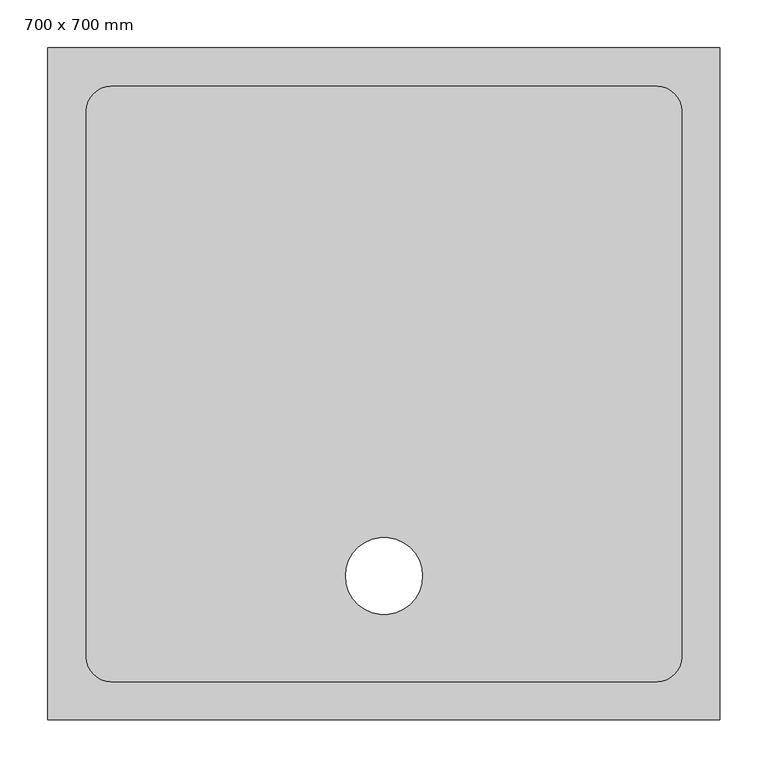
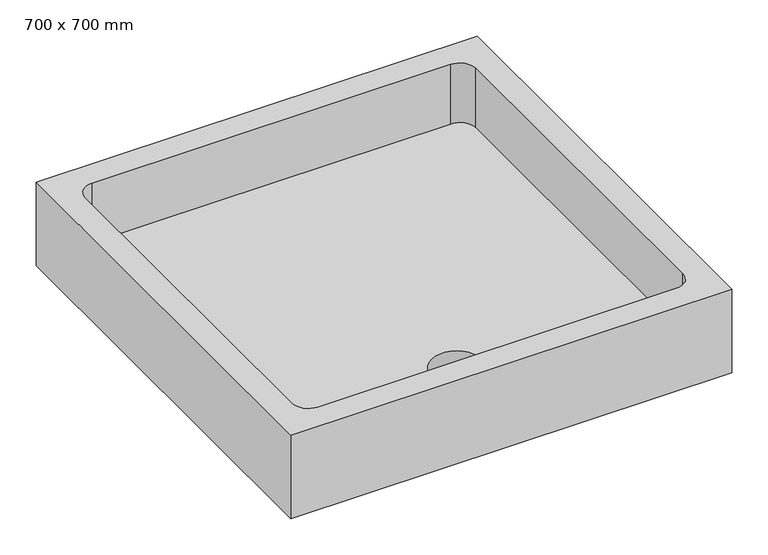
"""IFC4 building model written with IfcOpenShell, lengths in millimetres: flow terminal geometry, Cubeta de ducha - Desagüe axial : 700 x 700 mm."""

import ifcopenshell
import ifcopenshell.guid

model = None  # the IFC model being written
_history = None  # IfcOwnerHistory: only IFC2X3 demands one
_inside = {}  # id of a spatial element -> (the spatial element, [elements in it])
_under = {}  # id of a project, library or spatial element -> (it, [spatial elements below it])
_declared = {}  # id of a project -> (the project, [libraries it declares])
_typed = {}  # id of a type object -> (the type object, [elements of that type])
_made_of = {}  # id of a material, layer set ... -> (it, [elements and type objects made of it])


def new_model(schema):
    """Start an empty IFC model of exactly this schema.

    Asked for "IFC4X3", IfcOpenShell would pick the latest addendum, in which some entities
    have other attributes; the version numbers below select the first issue.
    IFC2X3 requires an IfcOwnerHistory on every rooted entity: one is made here for all.
    """
    global model, _history
    if schema == "IFC4X3":
        model = ifcopenshell.file(schema_version=(4, 3, 0, 0))
    else:
        model = ifcopenshell.file(schema=schema)
    _inside.clear()
    _under.clear()
    _declared.clear()
    _typed.clear()
    _made_of.clear()
    _history = None
    if model.schema == "IFC2X3":
        org = make("IfcOrganization", Name="unknown")
        user = make(
            "IfcPersonAndOrganization",
            ThePerson=make("IfcPerson", FamilyName="unknown"),
            TheOrganization=org,
        )
        app = make(
            "IfcApplication",
            ApplicationDeveloper=org,
            Version="unknown",
            ApplicationFullName="unknown",
            ApplicationIdentifier="unknown",
        )
        _history = make(
            "IfcOwnerHistory",
            OwningUser=user,
            OwningApplication=app,
            ChangeAction="ADDED",
            CreationDate=0,
        )
    return model


def make(cls, **values):
    """One entity of the class cls with the attributes given. An attribute that is None is left unset."""
    return model.create_entity(
        cls, **{name: value for name, value in values.items() if value is not None}
    )


def rooted(cls, **values):
    """An entity with a GlobalId (a new one), such as an element, a storey or a relation."""
    return make(cls, GlobalId=ifcopenshell.guid.new(), OwnerHistory=_history, **values)


def si_unit(unit_type, name, prefix=None):
    """IfcSIUnit, for example si_unit("LENGTHUNIT", "METRE", prefix="MILLI")."""
    return make("IfcSIUnit", UnitType=unit_type, Prefix=prefix, Name=name)


def assignment(units):
    """IfcUnitAssignment: the units of a project."""
    return None if units is None else make("IfcUnitAssignment", Units=units)


def point(xyz):
    """IfcCartesianPoint."""
    return None if xyz is None else make("IfcCartesianPoint", Coordinates=xyz)


def direction(xyz):
    """IfcDirection."""
    return None if xyz is None else make("IfcDirection", DirectionRatios=xyz)


def frame(location, z_axis=None, x_axis=None):
    """IfcAxis2Placement3D, a coordinate frame: its origin and axes. An axis left out is left unset."""
    return make(
        "IfcAxis2Placement3D",
        Location=point(location),
        Axis=direction(z_axis),
        RefDirection=direction(x_axis),
    )


def origin():
    """The frame at (0, 0, 0) with its axes left unset."""
    return frame((0.0, 0.0, 0.0))


def place(relative_to, where):
    """IfcLocalPlacement: puts the frame where relative to a parent placement (None: the world)."""
    return make(
        "IfcLocalPlacement", PlacementRelTo=relative_to, RelativePlacement=where
    )


def context(
    kind, dimensions, precision=None, world=None, true_north=None, identifier=None
):
    """IfcGeometricRepresentationContext, for example the 3D "Model" context."""
    return make(
        "IfcGeometricRepresentationContext",
        ContextIdentifier=identifier,
        ContextType=kind,
        CoordinateSpaceDimension=dimensions,
        Precision=precision,
        WorldCoordinateSystem=world,
        TrueNorth=true_north,
    )


def project(units=None, contexts=None):
    """IfcProject with its units and contexts."""
    return rooted(
        "IfcProject",
        Name="project",
        RepresentationContexts=contexts,
        UnitsInContext=assignment(units),
    )


def spatial(cls, under=None, at=None, **own):
    """A site, building, storey or space (cls), placed at a placement, below another one or the project."""
    s = rooted(cls, ObjectPlacement=at, **own)
    if under is not None:
        _under.setdefault(under.id(), (under, []))[1].append(s)
    return s


def polyline(points):
    """IfcPolyline through the points."""
    return make("IfcPolyline", Points=[point(p) for p in points])


def circle_curve(where, radius):
    """IfcCircle in the frame where."""
    return make("IfcCircle", Position=where, Radius=radius)


def shape(context_of_items, identifier, shape_type, items):
    """IfcShapeRepresentation: the items that make up one representation, for example the "Body"."""
    return make(
        "IfcShapeRepresentation",
        ContextOfItems=context_of_items,
        RepresentationIdentifier=identifier,
        RepresentationType=shape_type,
        Items=items,
    )


def source(mapping_origin, context_of_items, identifier, shape_type, items):
    """IfcRepresentationMap: a shape defined once, which mapped items show again and again."""
    return make(
        "IfcRepresentationMap",
        MappingOrigin=mapping_origin,
        MappedRepresentation=shape(context_of_items, identifier, shape_type, items),
    )


def transform(
    local_origin,
    x_axis=None,
    y_axis=None,
    z_axis=None,
    scale=None,
    scale2=None,
    scale3=None,
    uniform=True,
):
    """IfcCartesianTransformationOperator3D, or its non-uniform kind. x_axis, y_axis, z_axis: its Axis1, 2, 3."""
    if uniform:
        return make(
            "IfcCartesianTransformationOperator3D",
            Axis1=direction(x_axis),
            Axis2=direction(y_axis),
            LocalOrigin=point(local_origin),
            Scale=scale,
            Axis3=direction(z_axis),
        )
    return make(
        "IfcCartesianTransformationOperator3DnonUniform",
        Axis1=direction(x_axis),
        Axis2=direction(y_axis),
        LocalOrigin=point(local_origin),
        Scale=scale,
        Axis3=direction(z_axis),
        Scale2=scale2,
        Scale3=scale3,
    )


def mapped(mapping_source, mapping_target):
    """IfcMappedItem: shows the shape of a source again, moved by a transform."""
    return make(
        "IfcMappedItem", MappingSource=mapping_source, MappingTarget=mapping_target
    )


def made_of(thing, what):
    """Note that an element or type object is made of a material, layer set ...; save() writes the relation."""
    if what is not None:
        _made_of.setdefault(what.id(), (what, []))[1].append(thing)
    return thing


def element(
    cls,
    number,
    at=None,
    inside=None,
    cuts=None,
    type_object=None,
    material=None,
    context=None,
    identifier="Body",
    shape_type=None,
    held_by="IfcProductDefinitionShape",
    body=None,
    shapes=None,
    **own,
):
    """One element of the class cls, such as IfcWall. Its Tag is "e" and its number.

    at: its placement. inside: the storey or other place that contains it. cuts: it is an
    opening in that element (IfcRelVoidsElement). A single representation is given by context,
    identifier, shape_type and body (its items); several are given by shapes. held_by: the class
    of the entity that holds the representations. save() writes the other relations.
    """
    e = rooted(cls, Tag="e%d" % number, ObjectPlacement=at, **own)
    if body is not None:
        shapes = [shape(context, identifier, shape_type, body)]
    if shapes is not None:
        e.Representation = make(held_by, Representations=shapes)
    if inside is not None:
        _inside.setdefault(inside.id(), (inside, []))[1].append(e)
    if cuts is not None:
        rooted(
            "IfcRelVoidsElement", RelatingBuildingElement=cuts, RelatedOpeningElement=e
        )
    if type_object is not None:
        _typed.setdefault(type_object.id(), (type_object, []))[1].append(e)
    return made_of(e, material)


def aggregate(whole, parts):
    """IfcRelAggregates: a whole, such as a stair, and the parts it consists of."""
    return rooted("IfcRelAggregates", RelatingObject=whole, RelatedObjects=parts)


def save(model, path):
    """Write the relations noted so far, then the file.

    IfcRelAggregates (storeys below a building ...), IfcRelContainedInSpatialStructure (elements
    in a storey), IfcRelDefinesByType, IfcRelAssociatesMaterial and IfcRelDeclares: one each for
    every whole, place, type object, material and project.
    """
    for whole, parts in _under.values():
        aggregate(whole, parts)
    for where, things in _inside.values():
        rooted(
            "IfcRelContainedInSpatialStructure",
            RelatedElements=things,
            RelatingStructure=where,
        )
    for kind, things in _typed.values():
        rooted("IfcRelDefinesByType", RelatedObjects=things, RelatingType=kind)
    for what, things in _made_of.values():
        rooted("IfcRelAssociatesMaterial", RelatedObjects=things, RelatingMaterial=what)
    for by, libraries in _declared.values():
        rooted("IfcRelDeclares", RelatingContext=by, RelatedDefinitions=libraries)
    model.write(path)


def plane_surface(at):
    """IfcPlane: the flat surface through the origin of the frame at, square to its z axis."""
    return make("IfcPlane", Position=at)


def revolved_surface(curve, axis_point, axis_direction):
    """IfcSurfaceOfRevolution: the curve turned about the line through axis_point along axis_direction."""
    return make(
        "IfcSurfaceOfRevolution",
        SweptCurve=make("IfcArbitraryOpenProfileDef", ProfileType="CURVE", Curve=curve),
        AxisPosition=make("IfcAxis1Placement", Location=point(axis_point), Axis=direction(axis_direction)),
    )


def advanced_brep(points, edges, surfaces, faces):
    """IfcAdvancedBrep: a solid bounded by faces that lie on surfaces and meet in shared edges.

    An edge is (start, end): straight between two places in points (the first is 0);
    or (start, end, curve); or (start, end, curve, False) where it runs against its curve.
    A face is (place in surfaces, loops), or (place, loops, False) where it looks against
    its surface's normal. A loop lists edges by number (the first is 1), with a minus sign
    where the edge is run from its end to its start. The first loop is the outer one.
    """
    corners = [point(p) for p in points]
    vertices = [make("IfcVertexPoint", VertexGeometry=c) for c in corners]
    made = []
    for start, end, *more in edges:
        made.append(
            make(
                "IfcEdgeCurve",
                EdgeStart=vertices[start],
                EdgeEnd=vertices[end],
                EdgeGeometry=more[0] if more else make("IfcPolyline", Points=[corners[start], corners[end]]),
                SameSense=more[1] if len(more) > 1 else True,
            )
        )
    hull = []
    for where, loops, *sense in faces:
        bounds = []
        for j, loop in enumerate(loops):
            ring = [make("IfcOrientedEdge", EdgeElement=made[abs(k) - 1], Orientation=k > 0) for k in loop]
            bounds.append(
                make(
                    "IfcFaceOuterBound" if j == 0 else "IfcFaceBound",
                    Bound=make("IfcEdgeLoop", EdgeList=ring),
                    Orientation=True,
                )
            )
        hull.append(make("IfcAdvancedFace", Bounds=bounds, FaceSurface=surfaces[where], SameSense=sense[0] if sense else True))
    return make("IfcAdvancedBrep", Outer=make("IfcClosedShell", CfsFaces=hull))


def flow_terminal_700_x_700_mm_ef0395e3(model_context):
    return source(origin(), model_context, "Body", "AdvancedBrep", [
        advanced_brep(
        [(350.0, 350.0, 140.0), (-350.0, 350.0, 140.0), (-350.0, -350.0, 140.0), (350.0, -350.0, 140.0), (310.0, -284.6, 140.0), (284.6, -310.0, 140.0), (-284.6, -310.0, 140.0), (-310.0, -284.6, 140.0), (-310.0, 284.6, 140.0), (-284.6, 310.0, 140.0), (284.6, 310.0, 140.0), (310.0, 284.6, 140.0), (350.0, 350.0, 0.0), (350.0, -350.0, 0.0), (-350.0, -350.0, 0.0), (-350.0, 350.0, 0.0), (-40.0, -200.0, 0.0), (40.0, -200.0, 0.0), (284.6, -310.0, 40.0), (310.0, -284.6, 40.0), (310.0, 284.6, 40.0), (284.6, 310.0, 40.0), (-284.6, 310.0, 40.0), (-310.0, 284.6, 40.0), (-310.0, -284.6, 40.0), (-284.6, -310.0, 40.0), (40.0, -200.0, 40.0), (-40.0, -200.0, 40.0)],
        [
            (0, 1),
            (1, 2),
            (2, 3),
            (3, 0),
            (4, 5, circle_curve(frame((284.6, -284.6, 140.0), z_axis=(0.0, 0.0, -1.0), x_axis=(1.0, 0.0, 0.0)), 25.4)),
            (5, 6),
            (6, 7, circle_curve(frame((-284.6, -284.6, 140.0), z_axis=(0.0, 0.0, -1.0), x_axis=(1.0, 0.0, 0.0)), 25.4)),
            (7, 8),
            (8, 9, circle_curve(frame((-284.6, 284.6, 140.0), z_axis=(0.0, 0.0, -1.0), x_axis=(1.0, 0.0, 0.0)), 25.4)),
            (9, 10),
            (10, 11, circle_curve(frame((284.6, 284.6, 140.0), z_axis=(0.0, 0.0, -1.0), x_axis=(1.0, 0.0, 0.0)), 25.4)),
            (11, 4),
            (12, 13),
            (13, 14),
            (14, 15),
            (15, 12),
            (16, 17, circle_curve(frame((0.0, -200.0, 0.0), z_axis=(0.0, 0.0, 1.0), x_axis=(1.0, 0.0, 0.0)), 40.0)),
            (17, 16, circle_curve(frame((0.0, -200.0, 0.0), z_axis=(0.0, 0.0, 1.0), x_axis=(1.0, 0.0, 0.0)), 40.0)),
            (0, 12),
            (15, 1),
            (14, 2),
            (13, 3),
            (18, 19, circle_curve(frame((284.6, -284.6, 40.0), z_axis=(0.0, 0.0, 1.0), x_axis=(1.0, 0.0, 0.0)), 25.4)),
            (19, 20),
            (20, 21, circle_curve(frame((284.6, 284.6, 40.0), z_axis=(0.0, 0.0, 1.0), x_axis=(1.0, 0.0, 0.0)), 25.4)),
            (21, 22),
            (22, 23, circle_curve(frame((-284.6, 284.6, 40.0), z_axis=(0.0, 0.0, 1.0), x_axis=(1.0, 0.0, 0.0)), 25.4)),
            (23, 24),
            (24, 25, circle_curve(frame((-284.6, -284.6, 40.0), z_axis=(0.0, 0.0, 1.0), x_axis=(1.0, 0.0, 0.0)), 25.4)),
            (25, 18),
            (26, 27, circle_curve(frame((0.0, -200.0, 40.0), z_axis=(0.0, 0.0, -1.0), x_axis=(1.0, 0.0, 0.0)), 40.0)),
            (27, 26, circle_curve(frame((0.0, -200.0, 40.0), z_axis=(0.0, 0.0, -1.0), x_axis=(1.0, 0.0, 0.0)), 40.0)),
            (18, 5),
            (4, 19),
            (11, 20),
            (10, 21),
            (9, 22),
            (8, 23),
            (7, 24),
            (6, 25),
            (16, 27),
            (26, 17),
        ],
        [
            plane_surface(frame((-350.0, 350.0, 140.0), z_axis=(0.0, 0.0, 1.0), x_axis=(-1.0, 0.0, 0.0))),
            plane_surface(frame((-350.0, 350.0, 0.0), z_axis=(0.0, 0.0, -1.0), x_axis=(1.0, 0.0, 0.0))),
            plane_surface(frame((350.0, 350.0, 140.0), z_axis=(0.0, 1.0, 0.0), x_axis=(0.0, 0.0, -1.0))),
            plane_surface(frame((-350.0, 350.0, 140.0), z_axis=(-1.0, 0.0, 0.0), x_axis=(0.0, 0.0, -1.0))),
            plane_surface(frame((-350.0, -350.0, 140.0), z_axis=(0.0, -1.0, 0.0), x_axis=(0.0, 0.0, -1.0))),
            plane_surface(frame((350.0, -350.0, 140.0), z_axis=(1.0, 0.0, 0.0), x_axis=(0.0, 0.0, -1.0))),
            plane_surface(frame((310.0, -284.6, 40.0), z_axis=(0.0, 0.0, 1.0), x_axis=(0.0, -1.0, 0.0))),
            revolved_surface(polyline([(310.0, -284.6, 140.0), (310.0, -284.6, 40.0)]), (284.6, -284.6, 40.0), (0.0, 0.0, 1.0)),
            plane_surface(frame((310.0, -284.6, 140.0), z_axis=(-1.0, 0.0, 0.0), x_axis=(0.0, 0.0, -1.0))),
            revolved_surface(polyline([(310.0, 284.6, 140.0), (310.0, 284.6, 40.0)]), (284.6, 284.6, 40.0), (0.0, 0.0, 1.0)),
            plane_surface(frame((284.6, 310.0, 140.0), z_axis=(0.0, -1.0, 0.0), x_axis=(0.0, 0.0, -1.0))),
            revolved_surface(polyline([(-259.20000000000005, 284.6, 140.0), (-259.20000000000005, 284.6, 40.0)]), (-284.6, 284.6, 40.0), (0.0, 0.0, 1.0)),
            plane_surface(frame((-310.0, 284.6, 140.0), z_axis=(1.0, 0.0, 0.0), x_axis=(0.0, 0.0, -1.0))),
            revolved_surface(polyline([(-259.20000000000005, -284.6, 140.0), (-259.20000000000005, -284.6, 40.0)]), (-284.6, -284.6, 40.0), (0.0, 0.0, 1.0)),
            plane_surface(frame((-284.6, -310.0, 140.0), z_axis=(0.0, 1.0, 0.0), x_axis=(0.0, 0.0, -1.0))),
            revolved_surface(polyline([(40.0, -200.0, 40.0), (40.0, -200.0, 0.0)]), (0.0, -200.0, 0.0), (0.0, 0.0, 1.0)),
        ],
        [
            (0, [[1, 2, 3, 4], [5, 6, 7, 8, 9, 10, 11, 12]]),
            (1, [[13, 14, 15, 16], [17, 18]]),
            (2, [[-1, 19, -16, 20]]),
            (3, [[-2, -20, -15, 21]]),
            (4, [[-3, -21, -14, 22]]),
            (5, [[-4, -22, -13, -19]]),
            (6, [[23, 24, 25, 26, 27, 28, 29, 30], [31, 32]]),
            (7, [[-23, 33, -5, 34]]),
            (8, [[-24, -34, -12, 35]]),
            (9, [[-25, -35, -11, 36]]),
            (10, [[-26, -36, -10, 37]]),
            (11, [[-27, -37, -9, 38]]),
            (12, [[-28, -38, -8, 39]]),
            (13, [[-29, -39, -7, 40]]),
            (14, [[-30, -40, -6, -33]]),
            (15, [[41, -31, 42, -17]]),
            (15, [[-41, -18, -42, -32]]),
        ],
    ),
    ])


if __name__ == "__main__":
    model = new_model("IFC4")
    model_context = context("Model", 3, world=origin())
    ifc_project = project(units=[si_unit("LENGTHUNIT", "METRE", prefix="MILLI")], contexts=[model_context])
    site = spatial("IfcSite", under=ifc_project)
    building = spatial("IfcBuilding", under=site)
    placement = place(None, origin())
    flow_terminal_700_x_700_mm_shape = flow_terminal_700_x_700_mm_ef0395e3(model_context)
    element("IfcFlowTerminal", 1, ObjectType="Cubeta de ducha - Desagüe axial : 700 x 700 mm", at=placement, inside=building, context=model_context, shape_type="MappedRepresentation", body=[
        mapped(flow_terminal_700_x_700_mm_shape, transform((0.0, 0.0, 0.0), x_axis=(1.0, 0.0, 0.0), y_axis=(0.0, 1.0, 0.0), z_axis=(0.0, 0.0, 1.0))),
    ])
    save(model, "model.ifc")
